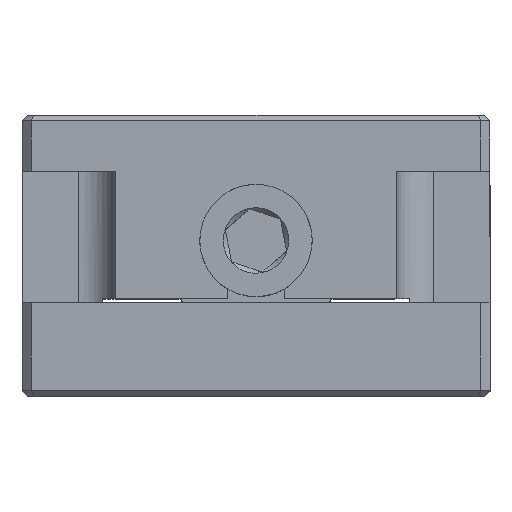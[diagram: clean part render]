
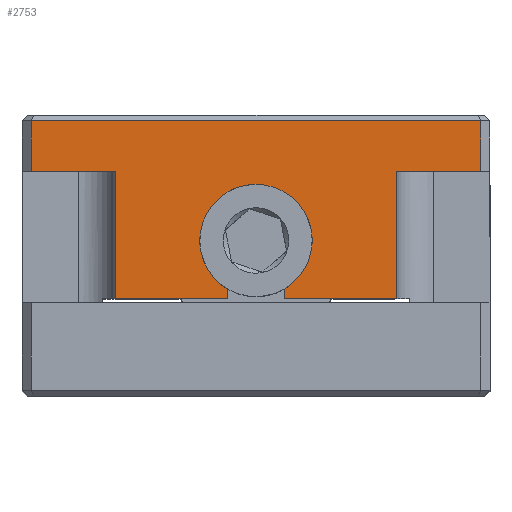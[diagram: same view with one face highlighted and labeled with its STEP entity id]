
A CAD part, top view. The second image highlights one B-rep face of the part: STEP entity #2753.
In plain terms, the highlighted planar face has unit normal (0, 0, 1).
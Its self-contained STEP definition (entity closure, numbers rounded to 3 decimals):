
#81 = VERTEX_POINT ( 'NONE', #3022 ) ;
#191 = EDGE_CURVE ( 'NONE', #3715, #963, #2085, .T. ) ;
#193 = CARTESIAN_POINT ( 'NONE',  ( 24.5, 20.7, 23.436 ) ) ;
#261 = CIRCLE ( 'NONE', #688, 1.5 ) ;
#381 = DIRECTION ( 'NONE',  ( -1., 0., 0. ) ) ;
#390 = EDGE_CURVE ( 'NONE', #3040, #3922, #3350, .T. ) ;
#485 = CARTESIAN_POINT ( 'NONE',  ( 4.3, 11.2, 23.436 ) ) ;
#520 = CARTESIAN_POINT ( 'NONE',  ( 5., 11.2, 23.436 ) ) ;
#551 = EDGE_CURVE ( 'NONE', #1441, #2167, #1384, .T. ) ;
#688 = AXIS2_PLACEMENT_3D ( 'NONE', #4077, #1321, #2731 ) ;
#759 = CARTESIAN_POINT ( 'NONE',  ( 0., 18., 23.436 ) ) ;
#775 = ORIENTED_EDGE ( 'NONE', *, *, #4102, .T. ) ;
#963 = VERTEX_POINT ( 'NONE', #3483 ) ;
#1004 = CARTESIAN_POINT ( 'NONE',  ( 0.5, 20.7, 23.436 ) ) ;
#1018 = DIRECTION ( 'NONE',  ( 0., 1., 0. ) ) ;
#1061 = VERTEX_POINT ( 'NONE', #520 ) ;
#1153 = CARTESIAN_POINT ( 'NONE',  ( 0.5, 18., 23.436 ) ) ;
#1192 = CARTESIAN_POINT ( 'NONE',  ( 11., 14.5, 23.436 ) ) ;
#1236 = CARTESIAN_POINT ( 'NONE',  ( 14., 11.2, 23.436 ) ) ;
#1239 = VECTOR ( 'NONE', #381, 1000. ) ;
#1243 = ORIENTED_EDGE ( 'NONE', *, *, #1509, .F. ) ;
#1292 = ORIENTED_EDGE ( 'NONE', *, *, #2218, .T. ) ;
#1321 = DIRECTION ( 'NONE',  ( 0., 0., 1. ) ) ;
#1367 = PLANE ( 'NONE',  #1383 ) ;
#1383 = AXIS2_PLACEMENT_3D ( 'NONE', #1783, #4563, #4519 ) ;
#1384 = LINE ( 'NONE', #2447, #2812 ) ;
#1389 = CARTESIAN_POINT ( 'NONE',  ( 20., 11., 23.436 ) ) ;
#1399 = VERTEX_POINT ( 'NONE', #2245 ) ;
#1400 = ORIENTED_EDGE ( 'NONE', *, *, #3146, .F. ) ;
#1423 = ORIENTED_EDGE ( 'NONE', *, *, #1648, .F. ) ;
#1441 = VERTEX_POINT ( 'NONE', #2265 ) ;
#1509 = EDGE_CURVE ( 'NONE', #81, #4093, #261, .T. ) ;
#1648 = EDGE_CURVE ( 'NONE', #2167, #81, #4535, .T. ) ;
#1703 = ORIENTED_EDGE ( 'NONE', *, *, #1815, .T. ) ;
#1734 = VECTOR ( 'NONE', #3791, 1000. ) ;
#1783 = CARTESIAN_POINT ( 'NONE',  ( 0., 11., 23.436 ) ) ;
#1808 = VERTEX_POINT ( 'NONE', #1153 ) ;
#1815 = EDGE_CURVE ( 'NONE', #1808, #4326, #3976, .T. ) ;
#1817 = EDGE_LOOP ( 'NONE', ( #1243, #1423, #4364, #3372, #2631, #775, #3296, #1292, #1703, #2954, #2850, #1400 ) ) ;
#1882 = LINE ( 'NONE', #3264, #4502 ) ;
#1888 = EDGE_CURVE ( 'NONE', #1399, #1061, #3651, .T. ) ;
#2085 = LINE ( 'NONE', #3865, #1239 ) ;
#2137 = CARTESIAN_POINT ( 'NONE',  ( 5., 18., 23.436 ) ) ;
#2167 = VERTEX_POINT ( 'NONE', #1236 ) ;
#2218 = EDGE_CURVE ( 'NONE', #3922, #1808, #3736, .T. ) ;
#2232 = DIRECTION ( 'NONE',  ( 0., 1., 0. ) ) ;
#2245 = CARTESIAN_POINT ( 'NONE',  ( 11., 11.2, 23.436 ) ) ;
#2265 = CARTESIAN_POINT ( 'NONE',  ( 20., 11.2, 23.436 ) ) ;
#2347 = VECTOR ( 'NONE', #1018, 1000. ) ;
#2389 = DIRECTION ( 'NONE',  ( 0., -1., 0. ) ) ;
#2447 = CARTESIAN_POINT ( 'NONE',  ( 4.3, 11.2, 23.436 ) ) ;
#2462 = VECTOR ( 'NONE', #4189, 1000. ) ;
#2513 = DIRECTION ( 'NONE',  ( 0., -1., 0. ) ) ;
#2561 = EDGE_CURVE ( 'NONE', #4326, #1061, #2707, .T. ) ;
#2631 = ORIENTED_EDGE ( 'NONE', *, *, #191, .F. ) ;
#2688 = CARTESIAN_POINT ( 'NONE',  ( 0.5, 11., 23.436 ) ) ;
#2707 = LINE ( 'NONE', #4054, #4561 ) ;
#2731 = DIRECTION ( 'NONE',  ( 1., 0., 0. ) ) ;
#2753 = ADVANCED_FACE ( 'NONE', ( #3115 ), #1367, .F. ) ;
#2806 = EDGE_CURVE ( 'NONE', #1441, #963, #3096, .T. ) ;
#2812 = VECTOR ( 'NONE', #3905, 1000. ) ;
#2835 = VECTOR ( 'NONE', #3298, 1000. ) ;
#2850 = ORIENTED_EDGE ( 'NONE', *, *, #1888, .F. ) ;
#2954 = ORIENTED_EDGE ( 'NONE', *, *, #2561, .T. ) ;
#3022 = CARTESIAN_POINT ( 'NONE',  ( 14., 14.5, 23.436 ) ) ;
#3040 = VERTEX_POINT ( 'NONE', #193 ) ;
#3096 = LINE ( 'NONE', #1389, #2347 ) ;
#3115 = FACE_OUTER_BOUND ( 'NONE', #1817, .T. ) ;
#3146 = EDGE_CURVE ( 'NONE', #4093, #1399, #3202, .T. ) ;
#3201 = VECTOR ( 'NONE', #3952, 1000. ) ;
#3202 = LINE ( 'NONE', #4208, #4504 ) ;
#3264 = CARTESIAN_POINT ( 'NONE',  ( 24.5, 11., 23.436 ) ) ;
#3296 = ORIENTED_EDGE ( 'NONE', *, *, #390, .T. ) ;
#3298 = DIRECTION ( 'NONE',  ( -1., 0., 0. ) ) ;
#3350 = LINE ( 'NONE', #3725, #1734 ) ;
#3372 = ORIENTED_EDGE ( 'NONE', *, *, #2806, .T. ) ;
#3483 = CARTESIAN_POINT ( 'NONE',  ( 20., 18., 23.436 ) ) ;
#3594 = VECTOR ( 'NONE', #4435, 1000. ) ;
#3651 = LINE ( 'NONE', #485, #2835 ) ;
#3715 = VERTEX_POINT ( 'NONE', #4476 ) ;
#3725 = CARTESIAN_POINT ( 'NONE',  ( 0., 20.7, 23.436 ) ) ;
#3736 = LINE ( 'NONE', #2688, #3594 ) ;
#3791 = DIRECTION ( 'NONE',  ( -1., 0., 0. ) ) ;
#3815 = CARTESIAN_POINT ( 'NONE',  ( 14., 14.5, 23.436 ) ) ;
#3865 = CARTESIAN_POINT ( 'NONE',  ( 0., 18., 23.436 ) ) ;
#3905 = DIRECTION ( 'NONE',  ( -1., 0., 0. ) ) ;
#3922 = VERTEX_POINT ( 'NONE', #1004 ) ;
#3952 = DIRECTION ( 'NONE',  ( 1., 0., 0. ) ) ;
#3976 = LINE ( 'NONE', #759, #3201 ) ;
#4054 = CARTESIAN_POINT ( 'NONE',  ( 5., 11., 23.436 ) ) ;
#4077 = CARTESIAN_POINT ( 'NONE',  ( 12.5, 14.5, 23.436 ) ) ;
#4093 = VERTEX_POINT ( 'NONE', #1192 ) ;
#4102 = EDGE_CURVE ( 'NONE', #3715, #3040, #1882, .T. ) ;
#4189 = DIRECTION ( 'NONE',  ( 0., 1., 0. ) ) ;
#4208 = CARTESIAN_POINT ( 'NONE',  ( 11., 14.5, 23.436 ) ) ;
#4326 = VERTEX_POINT ( 'NONE', #2137 ) ;
#4364 = ORIENTED_EDGE ( 'NONE', *, *, #551, .F. ) ;
#4435 = DIRECTION ( 'NONE',  ( 0., -1., 0. ) ) ;
#4476 = CARTESIAN_POINT ( 'NONE',  ( 24.5, 18., 23.436 ) ) ;
#4502 = VECTOR ( 'NONE', #2232, 1000. ) ;
#4504 = VECTOR ( 'NONE', #2513, 1000. ) ;
#4519 = DIRECTION ( 'NONE',  ( -1., 0., 0. ) ) ;
#4535 = LINE ( 'NONE', #3815, #2462 ) ;
#4561 = VECTOR ( 'NONE', #2389, 1000. ) ;
#4563 = DIRECTION ( 'NONE',  ( 0., 0., -1. ) ) ;
